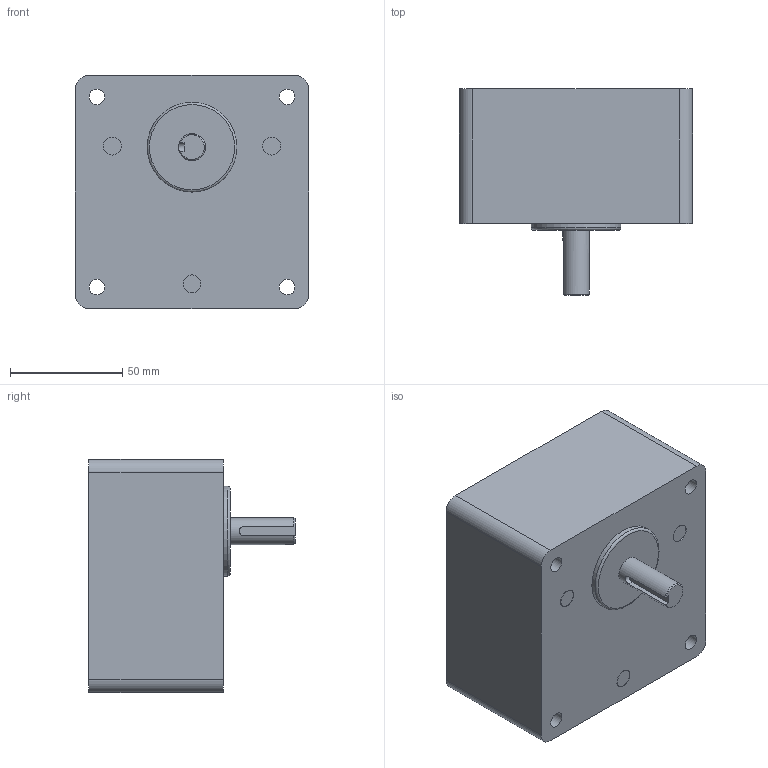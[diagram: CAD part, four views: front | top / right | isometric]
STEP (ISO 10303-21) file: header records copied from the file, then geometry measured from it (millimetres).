
FILE_DESCRIPTION((''),'2;1');
FILE_NAME('\\Servert1600\threepeace\2015homepage\STP\HP-Data_Gearhead_3D_STEP\GM-3.4.stp','2016-11-18T10:38:12',('Administrator'),(''),'Autodesk Inventor 2010','Autodesk Inventor 2010','');
FILE_SCHEMA(('AUTOMOTIVE_DESIGN { 1 0 10303 214 1 1 1 1 }'));
Length unit declared in the file: millimetre
Products named in the file (1): GM-3
Bounding box: 104 x 92 x 104 mm (x, y, z)
Volume: 623807.2 mm3; surface area: 53289.7 mm2
Topology: 1 solids, 1 shells, 32 faces, 72 edges, 48 vertices
Faces by surface type: plane 15, cylinder 11, bspline 4, cone 1, torus 1
Full cylindrical faces by diameter (mm): 8 x3, 12 x1, 40 x1, 94 x1
Entity records: 949 total; most frequent: CARTESIAN_POINT 230, DIRECTION 145, ORIENTED_EDGE 120, AXIS2_PLACEMENT_3D 60, EDGE_CURVE 60, EDGE_LOOP 57, VERTEX_POINT 47, FACE_OUTER_BOUND 32
